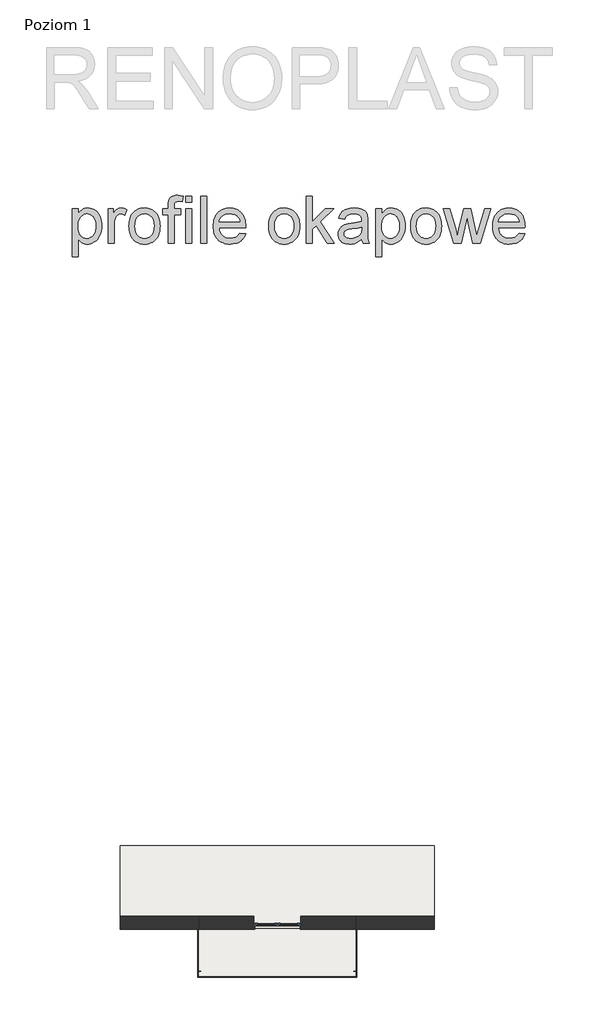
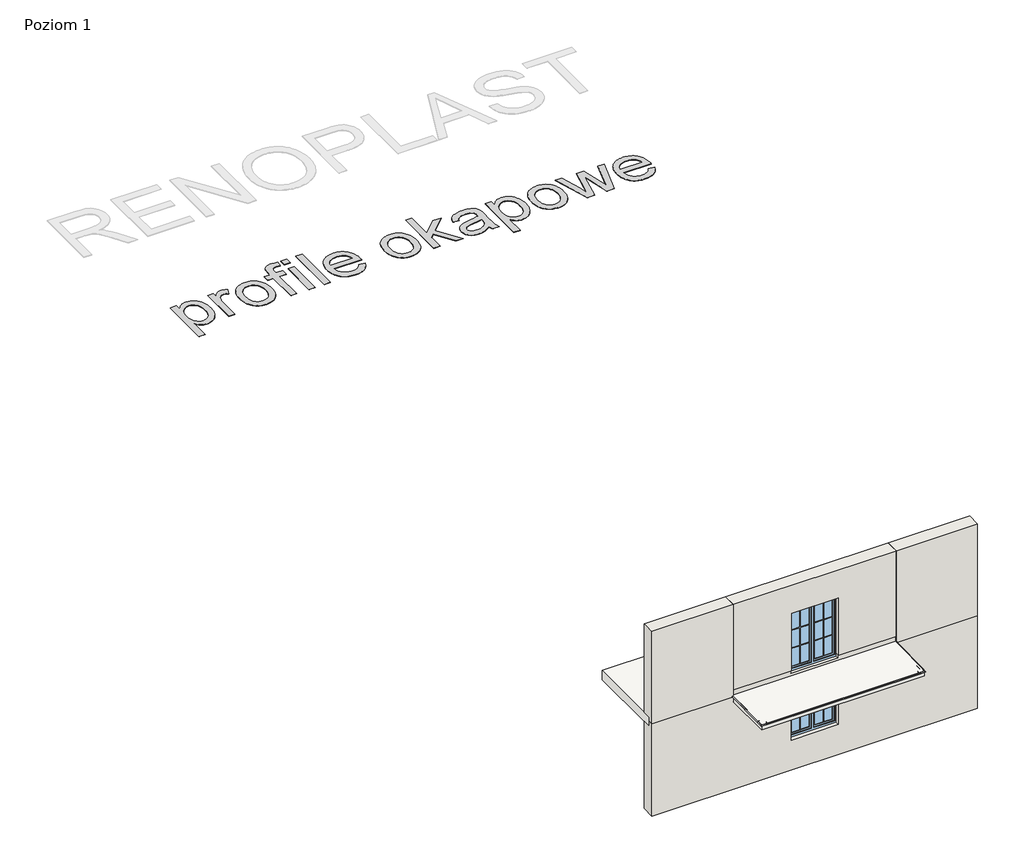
# One storey, part 1 of 2: 6 proxies, 5 walls, 2 slabs, 2 windows.
"""IFC4 building model written with IfcOpenShell, lengths in millimetres."""

from ifc_helpers import new_model, si_unit, origin, origin_with_axes, place, context, project, spatial, polyline, outline, extrude, faceted_brep, transform, mapped, element, save
from components import k10_195fb894, k10_5e8f6a10, k10_cc2a976c, opk10_a9e293d9, opk10_62074a0a, window_150x150_51b7f79a, window_150x200_12b14935

model = new_model("IFC4")

# Units and contexts
model_context = context("Model", 3, world=origin())
ifc_project = project(units=[si_unit("LENGTHUNIT", "METRE", prefix="MILLI")], contexts=[model_context])

# Site, building, storey
site = spatial("IfcSite", under=ifc_project)
building = spatial("IfcBuilding", under=site)
storey = spatial("IfcBuildingStorey", under=building, Name="Poziom 1", Elevation=0.0)

# Proxies
placement = place(None, origin())
element("IfcBuildingElementProxy", 1, Name="1500 mm Arial", ObjectType="1500 mm Arial", at=placement, inside=storey, context=model_context, shape_type="SweptSolid", body=[
    extrude(outline(polyline([(-113855.4830963, 53797.3435837), (-113855.4830963, 55327.7326836), (-113667.1275148, 55327.7326836), (-113667.1275148, 55143.055922), (-113637.3290732, 55191.857768), (-113605.6912216, 55234.1527011), (-113572.21396, 55269.9407214), (-113536.8972885, 55299.221829), (-113498.7295315, 55321.9960238), (-113456.6990136, 55338.2633057), (-113410.8057347, 55348.0236749), (-113361.0496948, 55351.2771313), (-113295.359766, 55346.7245916), (-113233.670554, 55333.0669725), (-113175.9820586, 55310.3042741), (-113122.2942799, 55278.4364963), (-113073.7798418, 55238.2913735), (-113031.6113681, 55190.6966404), (-112995.7888588, 55135.6522969), (-112966.312314, 55073.158343), (-112943.2966967, 55005.3530927), (-112926.85697, 54934.3748603), (-112916.993134, 54860.2236456), (-112913.7051887, 54782.8994488), (-112917.4184976, 54700.2294667), (-112928.5584242, 54621.8131201), (-112947.1249687, 54547.6504092), (-112973.1181309, 54477.7413338), (-113006.1815252, 54413.9138076), (-113045.9587659, 54357.9957443), (-113092.4498531, 54309.987144), (-113145.6547866, 54269.8880065), (-113202.9639037, 54238.2616512), (-113261.7675414, 54215.6713974), (-113322.0656996, 54202.1172452), (-113383.8583785, 54197.5991944), (-113428.3146184, 54200.6227246), (-113470.4486031, 54209.693315), (-113510.2603328, 54224.8109658), (-113547.7498074, 54245.9756768), (-113582.4571743, 54271.7619054), (-113613.9225812, 54300.7441088), (-113642.1460281, 54332.9222871), (-113667.1275148, 54368.2964402), (-113667.1275148, 53797.3435837), (-113855.4830963, 53797.3435837)]), holes=[polyline([(-113667.1275148, 54765.608995), (-113662.0346484, 54674.8341127), (-113646.7560493, 54596.7511592), (-113635.2971, 54562.4691558), (-113621.2917175, 54531.3601346), (-113604.7399017, 54503.4240955), (-113585.6416529, 54478.6610387), (-113542.7259189, 54438.1020488), (-113495.4645788, 54409.1313417), (-113443.8576327, 54391.7489174), (-113387.9050805, 54385.954776), (-113331.1477864, 54391.955851), (-113304.3470082, 54399.4571948), (-113278.5981426, 54409.9590761), (-113230.2561492, 54439.9644514), (-113186.1218061, 54481.9719767), (-113166.4200008, 54507.6259977), (-113149.3451029, 54536.5794604), (-113134.8971123, 54568.8323647), (-113123.0760292, 54604.3847106), (-113113.8818534, 54643.2364982), (-113107.3145849, 54685.3877274), (-113102.0607702, 54779.5885108), (-113107.1881255, 54869.5816439), (-113122.5701914, 54947.5266416), (-113134.1067409, 54981.9810897), (-113148.206968, 55013.423504), (-113164.8708727, 55041.8538844), (-113184.0984551, 55067.272231), (-113227.1176559, 55109.118808), (-113274.1375734, 55139.0092201), (-113325.1582076, 55156.9434674), (-113380.1795586, 55162.9215498), (-113408.0092567, 55161.3321846), (-113435.0284648, 55156.564089), (-113461.2371828, 55148.6172631), (-113486.6354109, 55137.4917069), (-113535.000397, 55105.7044032), (-113580.1234229, 55061.2021781), (-113600.515007, 55034.3324221), (-113618.1877131, 55004.5828398), (-113633.1415414, 54971.9534313), (-113645.3764918, 54936.4441965), (-113654.8925644, 54898.0551355), (-113661.689759, 54856.7862482), (-113667.1275148, 54765.608995)])]), origin_with_axes(), (0.0, 0.0, 1.0), 10.0),
    extrude(outline(polyline([(-112701.8051594, 54221.1436421), (-112701.8051594, 55327.7326836), (-112536.9940256, 55327.7326836), (-112536.9940256, 55164.0251958), (-112505.9539823, 55216.3564096), (-112476.1095554, 55258.9387505), (-112447.460745, 55291.7722186), (-112420.0075511, 55314.8568138), (-112392.508372, 55330.7907027), (-112363.7216059, 55342.1720519), (-112333.6472528, 55349.0008615), (-112302.2853127, 55351.2771313), (-112255.5642993, 55347.6442966), (-112208.4754039, 55336.7457925), (-112161.0186265, 55318.581619), (-112113.1939672, 55293.1517761), (-112176.1017883, 55124.2939403), (-112209.2111679, 55141.1935194), (-112242.3205475, 55153.2646474), (-112275.429927, 55160.5073242), (-112308.5393066, 55162.9215498), (-112337.4065469, 55160.5992947), (-112364.7792666, 55153.6325294), (-112390.6574657, 55142.0212539), (-112415.0411442, 55125.7654683), (-112437.0105971, 55105.3940028), (-112455.6461194, 55081.4356878), (-112470.9477112, 55053.8905235), (-112482.9153723, 55022.7585096), (-112496.2740873, 54971.3470008), (-112505.8160265, 54917.544259), (-112511.5411901, 54861.3502842), (-112513.4495779, 54802.7650765), (-112513.4495779, 54221.1436421), (-112701.8051594, 54221.1436421)])), origin_with_axes(), (0.0, 0.0, 1.0), 10.0),
    extrude(outline(polyline([(-112042.5606241, 54774.4381629), (-112040.0141909, 54848.5721331), (-112032.3748913, 54917.7511926), (-112019.6427254, 54981.9753416), (-112001.8176931, 55041.2445799), (-111978.8997945, 55095.5589076), (-111950.8890294, 55144.9183246), (-111917.785398, 55189.3228311), (-111879.5889002, 55228.7724269), (-111844.6286144, 55257.484467), (-111807.8059259, 55282.3682351), (-111769.1208349, 55303.4237312), (-111728.5733412, 55320.6509552), (-111686.163445, 55334.0499073), (-111641.8911461, 55343.6205873), (-111595.7564446, 55349.3629953), (-111547.7593406, 55351.2771313), (-111494.5572811, 55348.946254), (-111443.8441733, 55341.953622), (-111395.620017, 55330.2992353), (-111349.8848124, 55313.983094), (-111306.6385594, 55293.0051981), (-111265.8812581, 55267.3655475), (-111227.6129084, 55237.0641422), (-111191.8335102, 55202.1009823), (-111159.4570206, 55163.0278907), (-111131.3973962, 55120.3966904), (-111107.6546371, 55074.2073815), (-111088.2287434, 55024.4599638), (-111073.1197148, 54971.1544376), (-111062.3275516, 54914.2908026), (-111055.8522537, 54853.869059), (-111053.6938211, 54789.8892067), (-111057.5105968, 54689.0665474), (-111068.9609239, 54599.6022447), (-111088.0448024, 54521.4962986), (-111114.7622323, 54454.7487091), (-111148.7798205, 54397.0947026), (-111189.764174, 54346.2695057), (-111237.7152928, 54302.2731184), (-111292.6331769, 54265.1055405), (-111352.3795122, 54235.5715141), (-111414.8159846, 54214.475781), (-111479.942594, 54201.8183411), (-111547.7593406, 54197.5991944), (-111601.8006309, 54199.9214495), (-111653.1920211, 54206.8882148), (-111701.9335114, 54218.4994903), (-111748.0251017, 54234.7552759), (-111791.466792, 54255.6555718), (-111832.2585823, 54281.2003778), (-111870.4004726, 54311.3896941), (-111905.8924629, 54346.2235205), (-111937.9240632, 54385.4259456), (-111965.6847834, 54428.7210579), (-111989.1746236, 54476.1088574), (-112008.3935838, 54527.5893441), (-112023.3416639, 54583.162518), (-112034.018864, 54642.8283791), (-112040.4251841, 54706.5869274), (-112042.5606241, 54774.4381629)]), holes=[polyline([(-111854.2050426, 54774.8060449), (-111848.7557905, 54683.4448506), (-111841.9442254, 54642.3599044), (-111832.4080343, 54604.3387253), (-111820.1472172, 54569.3813136), (-111805.1617741, 54537.487669), (-111787.4517049, 54508.6577917), (-111767.0170097, 54482.8916817), (-111744.5187264, 54460.1720944), (-111720.6178931, 54440.4817854), (-111695.3145096, 54423.8207548), (-111668.608576, 54410.1890024), (-111640.5000923, 54399.5865283), (-111610.9890585, 54392.0133326), (-111547.7593406, 54385.954776), (-111484.8515194, 54392.0478215), (-111455.466945, 54399.6641284), (-111427.4619282, 54410.3269581), (-111400.8364688, 54424.0363106), (-111375.5905668, 54440.7921859), (-111351.7242224, 54460.5945839), (-111329.2374354, 54483.4435047), (-111308.8027402, 54509.4136743), (-111291.0926711, 54538.5798187), (-111276.1072279, 54570.941938), (-111263.8464108, 54606.5000321), (-111254.3102197, 54645.254101), (-111247.4986546, 54687.2041448), (-111242.0494026, 54780.6921568), (-111247.5331436, 54869.1562803), (-111254.3878198, 54909.1030917), (-111263.9843665, 54946.1930694), (-111276.3227838, 54980.4262135), (-111291.4030715, 55011.8025239), (-111309.2252297, 55040.3220008), (-111329.7892584, 55065.984644), (-111376.3148345, 55108.3945403), (-111401.5693587, 55125.055571), (-111428.1517069, 55138.6873233), (-111456.0618792, 55149.2897974), (-111485.2998756, 55156.8629932), (-111547.7593406, 55162.9215498), (-111610.9890585, 55156.8859858), (-111640.5000923, 55149.3415308), (-111668.608576, 55138.7792938), (-111695.3145096, 55125.1992749), (-111720.6178931, 55108.6014739), (-111744.5187264, 55088.985891), (-111767.0170097, 55066.352526), (-111787.4517049, 55040.6726383), (-111805.1617741, 55011.9174871), (-111820.1472172, 54980.0870723), (-111832.4080343, 54945.1813939), (-111841.9442254, 54907.200452), (-111848.7557905, 54866.1442465), (-111854.2050426, 54774.8060449)])]), origin_with_axes(), (0.0, 0.0, 1.0), 10.0),
    extrude(outline(polyline([(-110794.7048965, 54221.1436421), (-110794.7048965, 55139.3771021), (-110959.5160303, 55139.3771021), (-110959.5160303, 55327.7326836), (-110794.7048965, 55327.7326836), (-110794.7048965, 55439.2009282), (-110789.7384895, 55531.4473384), (-110783.5304808, 55567.2928403), (-110774.8392687, 55596.2865401), (-110758.4685199, 55629.2349713), (-110736.9474232, 55658.9184498), (-110710.2759786, 55685.3369756), (-110678.454186, 55708.4905486), (-110640.7922667, 55727.3215083), (-110596.600442, 55740.7721937), (-110545.878712, 55748.842605), (-110488.6270765, 55751.5327421), (-110406.865303, 55746.3823941), (-110316.8261847, 55730.9313503), (-110344.4173344, 55554.3479926), (-110400.2434271, 55560.9698686), (-110452.9425229, 55563.1771605), (-110491.811555, 55561.2227874), (-110524.5415562, 55555.3596681), (-110551.1325267, 55545.5878026), (-110571.5844664, 55531.9071909), (-110586.7940876, 55512.8922903), (-110597.6581028, 55487.117558), (-110604.1765119, 55454.5829941), (-110606.3493149, 55415.2885985), (-110606.3493149, 55327.7326836), (-110394.4492857, 55327.7326836), (-110394.4492857, 55139.3771021), (-110606.3493149, 55139.3771021), (-110606.3493149, 54221.1436421), (-110794.7048965, 54221.1436421)])), origin_with_axes(), (0.0, 0.0, 1.0), 10.0),
    extrude(outline(polyline([(-110229.6381519, 54221.1436421), (-110229.6381519, 55327.7326836), (-110041.2825703, 55327.7326836), (-110041.2825703, 54221.1436421), (-110229.6381519, 54221.1436421)])), origin_with_axes(), (0.0, 0.0, 1.0), 10.0),
    extrude(outline(polyline([(-110229.6381519, 55539.6327128), (-110229.6381519, 55727.9882944), (-110041.2825703, 55727.9882944), (-110041.2825703, 55539.6327128), (-110229.6381519, 55539.6327128)])), origin_with_axes(), (0.0, 0.0, 1.0), 10.0),
    extrude(outline(polyline([(-109758.749198, 54221.1436421), (-109758.749198, 55727.9882944), (-109570.3936165, 55727.9882944), (-109570.3936165, 54221.1436421), (-109758.749198, 54221.1436421)])), origin_with_axes(), (0.0, 0.0, 1.0), 10.0),
    extrude(outline(polyline([(-108513.1007624, 54550.7659098), (-108328.4240008, 54527.2214621), (-108356.7394181, 54453.2541885), (-108374.6133097, 54419.5642451), (-108394.9646567, 54388.0700974), (-108417.7934589, 54358.7717454), (-108443.0997165, 54331.669189), (-108470.8834293, 54306.7624283), (-108501.1445975, 54284.0514633), (-108533.733769, 54263.7892128), (-108568.5014916, 54246.2285957), (-108605.4477654, 54231.369612), (-108644.5725904, 54219.2122616), (-108729.357894, 54203.0024612), (-108822.8574023, 54197.5991944), (-108882.8853972, 54199.9300718), (-108939.7289136, 54206.9227037), (-108993.3879515, 54218.5770904), (-109043.8625109, 54234.8932317), (-109091.1525918, 54255.8711277), (-109135.2581941, 54281.5107783), (-109176.1793179, 54311.8121835), (-109213.9159632, 54346.7753435), (-109247.8013438, 54385.9461537), (-109277.1686737, 54428.87051), (-109302.0179529, 54475.5484122), (-109322.3491813, 54525.9798604), (-109338.1623589, 54580.1648546), (-109349.4574858, 54638.1033947), (-109356.2345619, 54699.7954809), (-109358.4935873, 54765.241113), (-109356.2115693, 54832.9141556), (-109349.3655153, 54896.6899484), (-109337.9554253, 54956.5684913), (-109321.9812993, 55012.5497842), (-109301.4431372, 55064.6338273), (-109276.3409392, 55112.8206206), (-109246.6747052, 55157.1101639), (-109212.4444352, 55197.5024573), (-109174.5755823, 55233.5433965), (-109133.9935997, 55264.7788772), (-109090.6984874, 55291.2088993), (-109044.6902454, 55312.8334628), (-108995.9688737, 55329.6525678), (-108944.5343722, 55341.6662142), (-108890.386741, 55348.874402), (-108833.5259802, 55351.2771313), (-108778.5247478, 55348.8801502), (-108726.0929413, 55341.6892068), (-108676.2305605, 55329.7043012), (-108628.9376056, 55312.9254333), (-108584.2140765, 55291.3526032), (-108542.0599732, 55264.9858108), (-108502.4752957, 55233.8250562), (-108465.460044, 55197.8703393), (-108431.9626639, 55157.5700164), (-108402.9316011, 55113.3724436), (-108378.3668557, 55065.2776208), (-108358.2684276, 55013.2855482), (-108342.6363169, 54957.3962258), (-108331.4705236, 54897.6096534), (-108324.7710475, 54833.9258311), (-108322.5378889, 54766.344759), (-108323.6415348, 54715.5770436), (-109170.1380058, 54715.5770436), (-109159.2280053, 54640.4141535), (-109149.7291773, 54606.3333355), (-109137.5344639, 54574.586269), (-109122.6438654, 54545.1729538), (-109105.0573815, 54518.0933901), (-109084.7750125, 54493.3475778), (-109061.7967582, 54470.9355168), (-109010.1438268, 54433.7564427), (-108952.4898204, 54407.1999612), (-108888.8347389, 54391.2660723), (-108819.1785824, 54385.954776), (-108767.0772948, 54388.4149868), (-108718.9307387, 54395.7956193), (-108674.738914, 54408.0966735), (-108634.5018208, 54425.3181494), (-108598.219459, 54447.9198995), (-108565.8918287, 54476.3617763), (-108537.5189298, 54510.6437797), (-108513.1007624, 54550.7659098)]), holes=[polyline([(-109170.1380058, 54903.9326252), (-108510.8934704, 54903.9326252), (-108520.5733654, 54957.2295292), (-108536.3692986, 55003.4447049), (-108558.2812699, 55042.5781521), (-108586.3092794, 55074.6298709), (-108611.1068251, 55095.3232332), (-108637.674803, 55113.2574804), (-108666.0132129, 55128.4326127), (-108696.122055, 55140.8486301), (-108761.6510354, 55157.4033198), (-108834.2617442, 55162.9215498), (-108900.4919996, 55158.5184621), (-108961.2270177, 55145.3091993), (-109016.4667986, 55123.2937611), (-109066.2113421, 55092.4721477), (-109107.9544523, 55054.2699018), (-109139.1899329, 55010.112566), (-109159.9177841, 54960.0001405), (-109170.1380058, 54903.9326252)])]), origin_with_axes(), (0.0, 0.0, 1.0), 10.0),
    extrude(outline(polyline([(-107592.6600104, 54774.4381629), (-107590.1135772, 54848.5721331), (-107582.4742777, 54917.7511926), (-107569.7421118, 54981.9753416), (-107551.9170795, 55041.2445799), (-107528.9991808, 55095.5589076), (-107500.9884158, 55144.9183246), (-107467.8847843, 55189.3228311), (-107429.6882866, 55228.7724269), (-107394.7280007, 55257.484467), (-107357.9053123, 55282.3682351), (-107319.2202212, 55303.4237312), (-107278.6727275, 55320.6509552), (-107236.2628313, 55334.0499073), (-107191.9905324, 55343.6205873), (-107145.855831, 55349.3629953), (-107097.8587269, 55351.2771313), (-107044.6566674, 55348.946254), (-106993.9435596, 55341.953622), (-106945.7194034, 55330.2992353), (-106899.9841988, 55313.983094), (-106856.7379458, 55293.0051981), (-106815.9806444, 55267.3655475), (-106777.7122947, 55237.0641422), (-106741.9328966, 55202.1009823), (-106709.5564069, 55163.0278907), (-106681.4967826, 55120.3966904), (-106657.7540235, 55074.2073815), (-106638.3281297, 55024.4599638), (-106623.2191012, 54971.1544376), (-106612.426938, 54914.2908026), (-106605.95164, 54853.869059), (-106603.7932074, 54789.8892067), (-106607.6099831, 54689.0665474), (-106619.0603102, 54599.6022447), (-106638.1441887, 54521.4962986), (-106664.8616186, 54454.7487091), (-106698.8792068, 54397.0947026), (-106739.8635604, 54346.2695057), (-106787.8146792, 54302.2731184), (-106842.7325633, 54265.1055405), (-106902.4788985, 54235.5715141), (-106964.9153709, 54214.475781), (-107030.0419804, 54201.8183411), (-107097.8587269, 54197.5991944), (-107151.9000172, 54199.9214495), (-107203.2914075, 54206.8882148), (-107252.0328978, 54218.4994903), (-107298.124488, 54234.7552759), (-107341.5661783, 54255.6555718), (-107382.3579686, 54281.2003778), (-107420.4998589, 54311.3896941), (-107455.9918492, 54346.2235205), (-107488.0234495, 54385.4259456), (-107515.7841698, 54428.7210579), (-107539.27401, 54476.1088574), (-107558.4929701, 54527.5893441), (-107573.4410503, 54583.162518), (-107584.1182504, 54642.8283791), (-107590.5245704, 54706.5869274), (-107592.6600104, 54774.4381629)]), holes=[polyline([(-107404.3044289, 54774.8060449), (-107398.8551768, 54683.4448506), (-107392.0436118, 54642.3599044), (-107382.5074207, 54604.3387253), (-107370.2466036, 54569.3813136), (-107355.2611604, 54537.487669), (-107337.5510912, 54508.6577917), (-107317.116396, 54482.8916817), (-107294.6181128, 54460.1720944), (-107270.7172794, 54440.4817854), (-107245.4138959, 54423.8207548), (-107218.7079623, 54410.1890024), (-107190.5994786, 54399.5865283), (-107161.0884448, 54392.0133326), (-107097.8587269, 54385.954776), (-107034.9509057, 54392.0478215), (-107005.5663314, 54399.6641284), (-106977.5613145, 54410.3269581), (-106950.9358551, 54424.0363106), (-106925.6899532, 54440.7921859), (-106901.8236087, 54460.5945839), (-106879.3368218, 54483.4435047), (-106858.9021266, 54509.4136743), (-106841.1920574, 54538.5798187), (-106826.2066143, 54570.941938), (-106813.9457971, 54606.5000321), (-106804.409606, 54645.254101), (-106797.598041, 54687.2041448), (-106792.1487889, 54780.6921568), (-106797.6325299, 54869.1562803), (-106804.4872062, 54909.1030917), (-106814.0837529, 54946.1930694), (-106826.4221701, 54980.4262135), (-106841.5024578, 55011.8025239), (-106859.3246161, 55040.3220008), (-106879.8886448, 55065.984644), (-106926.4142209, 55108.3945403), (-106951.668745, 55125.055571), (-106978.2510932, 55138.6873233), (-107006.1612655, 55149.2897974), (-107035.3992619, 55156.8629932), (-107097.8587269, 55162.9215498), (-107161.0884448, 55156.8859858), (-107190.5994786, 55149.3415308), (-107218.7079623, 55138.7792938), (-107245.4138959, 55125.1992749), (-107270.7172794, 55108.6014739), (-107294.6181128, 55088.985891), (-107317.116396, 55066.352526), (-107337.5510912, 55040.6726383), (-107355.2611604, 55011.9174871), (-107370.2466036, 54980.0870723), (-107382.5074207, 54945.1813939), (-107392.0436118, 54907.200452), (-107398.8551768, 54866.1442465), (-107404.3044289, 54774.8060449)])]), origin_with_axes(), (0.0, 0.0, 1.0), 10.0),
    extrude(outline(polyline([(-106391.8931782, 54221.1436421), (-106391.8931782, 55727.9882944), (-106203.5375966, 55727.9882944), (-106203.5375966, 54918.280023), (-105781.2090662, 55327.7326836), (-105520.7486136, 55327.7326836), (-105948.227492, 54913.1296751), (-105497.2041659, 54221.1436421), (-105717.197599, 54221.1436421), (-106083.2401842, 54782.1636848), (-106203.5375966, 54665.5450923), (-106203.5375966, 54221.1436421), (-106391.8931782, 54221.1436421)])), origin_with_axes(), (0.0, 0.0, 1.0), 10.0),
    extrude(outline(polyline([(-104626.0596013, 54362.4103283), (-104670.7227748, 54320.4947734), (-104716.0527344, 54285.2470798), (-104762.0494801, 54256.6672473), (-104808.7130119, 54234.7552759), (-104856.5721602, 54218.4994903), (-104906.1557554, 54206.8882148), (-104957.4637974, 54199.9214495), (-105010.4962863, 54197.5991944), (-105094.3618849, 54203.1864022), (-105132.423301, 54210.170412), (-105167.903795, 54219.9480256), (-105200.8033668, 54232.5192432), (-105231.1220166, 54247.8840646), (-105258.8597442, 54266.04249), (-105284.0165497, 54286.9945193), (-105306.3912476, 54310.1193516), (-105325.7826525, 54334.796186), (-105342.1907643, 54361.0250226), (-105355.615583, 54388.8058614), (-105366.0571087, 54418.1387024), (-105373.5153413, 54449.0235455), (-105379.4819274, 54515.4492383), (-105377.2286502, 54555.3874274), (-105370.4688186, 54593.5321917), (-105359.2024325, 54629.8835314), (-105343.4294919, 54664.4414463), (-105323.9892277, 54696.4471799), (-105301.7208707, 54725.1419755), (-105276.6244209, 54750.5258332), (-105248.6998782, 54772.5987529), (-105186.3898652, 54808.4672474), (-105116.8141829, 54834.4029281), (-105049.0319253, 54848.8422964), (-104953.842459, 54862.7298417), (-104850.2376921, 54876.985269), (-104761.2562346, 54892.5282833), (-104686.8980863, 54909.3588846), (-104627.1632473, 54927.4770729), (-104626.0596013, 54969.4156203), (-104629.3015614, 55015.078973), (-104639.0274417, 55053.4766562), (-104655.2372421, 55084.6086701), (-104677.9309626, 55108.4750145), (-104717.1563804, 55132.2953737), (-104764.9350545, 55149.309916), (-104821.266985, 55159.5186413), (-104886.1521719, 55162.9215498), (-104946.4848191, 55160.6567762), (-104998.3561804, 55153.8624556), (-105041.7662559, 55142.538588), (-105076.7150454, 55126.6851733), (-105105.4328337, 55105.0606097), (-105130.1499052, 55076.4232957), (-105150.8662601, 55040.7732311), (-105167.5818982, 54998.1104159), (-105355.9374798, 55021.6548636), (-105341.6015783, 55075.9174579), (-105323.2419674, 55124.6618223), (-105300.8586473, 55167.8879567), (-105274.4516178, 55205.5958612), (-105242.8827441, 55238.5442924), (-105205.0138912, 55267.4920069), (-105160.8450592, 55292.4390047), (-105110.376248, 55313.3852858), (-105054.6306294, 55329.9629682), (-104994.6313752, 55341.8041699), (-104930.3784855, 55348.908891), (-104861.8719602, 55351.2771313), (-104794.9059408, 55349.1848025), (-104734.5388047, 55342.9078159), (-104680.7705518, 55332.4461717), (-104633.6011822, 55317.7998697), (-104592.6398213, 55299.9920819), (-104557.4955945, 55280.04598), (-104528.1685017, 55257.961564), (-104504.6585429, 55233.7388338), (-104485.597657, 55206.7799814), (-104469.6177829, 55176.4871983), (-104456.7189204, 55142.8604847), (-104446.9010697, 55105.8998405), (-104440.0032823, 55040.7847274), (-104437.7040198, 54941.0887067), (-104437.7040198, 54706.7478758), (-104435.3127868, 54502.6193537), (-104428.1390879, 54379.516841), (-104413.9756311, 54298.6287874), (-104390.6151244, 54221.1436421), (-104578.9707059, 54221.1436421), (-104595.7093367, 54252.5975527), (-104609.1370295, 54286.6266373), (-104619.2537844, 54323.2308958), (-104626.0596013, 54362.4103283)]), holes=[polyline([(-104626.0596013, 54739.1214913), (-104682.9893401, 54722.8197204), (-104752.6110077, 54707.7595512), (-104929.9301293, 54681.3640181), (-105027.6487843, 54666.9246498), (-105091.9821482, 54650.8298125), (-105134.1506219, 54629.9525093), (-105151.1306753, 54616.5478091), (-105165.3746063, 54601.1657431), (-105176.6409924, 54584.3581345), (-105184.688411, 54566.6768061), (-105189.5168622, 54548.121758), (-105191.1263459, 54528.6929901), (-105187.6199707, 54499.4233788), (-105177.1008449, 54472.6829563), (-105159.5689685, 54448.4717225), (-105135.0243417, 54426.7896774), (-105103.6968905, 54408.924408), (-105065.8165413, 54396.1635013), (-105021.3832941, 54388.5069573), (-104970.3971488, 54385.954776), (-104918.3418465, 54388.7713725), (-104869.2296001, 54397.2211621), (-104823.0604097, 54411.3041447), (-104779.8342753, 54431.0203204), (-104740.8387838, 54454.7372127), (-104707.3615223, 54480.8223455), (-104679.4024906, 54509.2757185), (-104656.9616889, 54540.0973319), (-104643.9248707, 54567.6884816), (-104634.6128577, 54601.1657431), (-104629.0256499, 54640.5291166), (-104627.1632473, 54685.778602), (-104626.0596013, 54739.1214913)])]), origin_with_axes(), (0.0, 0.0, 1.0), 10.0),
    extrude(outline(polyline([(-104178.7150952, 53797.3435837), (-104178.7150952, 55327.7326836), (-103990.3595137, 55327.7326836), (-103990.3595137, 55143.055922), (-103960.5610721, 55191.857768), (-103928.9232205, 55234.1527011), (-103895.4459589, 55269.9407214), (-103860.1292874, 55299.221829), (-103821.9615304, 55321.9960238), (-103779.9310124, 55338.2633057), (-103734.0377335, 55348.0236749), (-103684.2816937, 55351.2771313), (-103618.5917649, 55346.7245916), (-103556.9025528, 55333.0669725), (-103499.2140575, 55310.3042741), (-103445.5262788, 55278.4364963), (-103397.0118407, 55238.2913735), (-103354.843367, 55190.6966404), (-103319.0208577, 55135.6522969), (-103289.5443128, 55073.158343), (-103266.5286955, 55005.3530927), (-103250.0889689, 54934.3748603), (-103240.2251329, 54860.2236456), (-103236.9371875, 54782.8994488), (-103240.6504964, 54700.2294667), (-103251.7904231, 54621.8131201), (-103270.3569675, 54547.6504092), (-103296.3501298, 54477.7413338), (-103329.4135241, 54413.9138076), (-103369.1907648, 54357.9957443), (-103415.6818519, 54309.987144), (-103468.8867855, 54269.8880065), (-103526.1959026, 54238.2616512), (-103584.9995402, 54215.6713974), (-103645.2976985, 54202.1172452), (-103707.0903774, 54197.5991944), (-103751.5466172, 54200.6227246), (-103793.680602, 54209.693315), (-103833.4923317, 54224.8109658), (-103870.9818062, 54245.9756768), (-103905.6891732, 54271.7619054), (-103937.1545801, 54300.7441088), (-103965.3780269, 54332.9222871), (-103990.3595137, 54368.2964402), (-103990.3595137, 53797.3435837), (-104178.7150952, 53797.3435837)]), holes=[polyline([(-103990.3595137, 54765.608995), (-103985.2666473, 54674.8341127), (-103969.9880482, 54596.7511592), (-103958.5290988, 54562.4691558), (-103944.5237163, 54531.3601346), (-103927.9719006, 54503.4240955), (-103908.8736517, 54478.6610387), (-103865.9579177, 54438.1020488), (-103818.6965777, 54409.1313417), (-103767.0896315, 54391.7489174), (-103711.1370793, 54385.954776), (-103654.3797853, 54391.955851), (-103627.5790071, 54399.4571948), (-103601.8301415, 54409.9590761), (-103553.4881481, 54439.9644514), (-103509.353805, 54481.9719767), (-103489.6519997, 54507.6259977), (-103472.5771018, 54536.5794604), (-103458.1291112, 54568.8323647), (-103446.308028, 54604.3847106), (-103437.1138522, 54643.2364982), (-103430.5465838, 54685.3877274), (-103425.2927691, 54779.5885108), (-103430.4201244, 54869.5816439), (-103445.8021903, 54947.5266416), (-103457.3387397, 54981.9810897), (-103471.4389668, 55013.423504), (-103488.1028716, 55041.8538844), (-103507.330454, 55067.272231), (-103550.3496548, 55109.118808), (-103597.3695723, 55139.0092201), (-103648.3902065, 55156.9434674), (-103703.4115574, 55162.9215498), (-103731.2412555, 55161.3321846), (-103758.2604636, 55156.564089), (-103784.4691817, 55148.6172631), (-103809.8674098, 55137.4917069), (-103858.2323958, 55105.7044032), (-103903.3554218, 55061.2021781), (-103923.7470058, 55034.3324221), (-103941.419712, 55004.5828398), (-103956.3735403, 54971.9534313), (-103968.6084907, 54936.4441965), (-103978.1245632, 54898.0551355), (-103984.9217579, 54856.7862482), (-103990.3595137, 54765.608995)])]), origin_with_axes(), (0.0, 0.0, 1.0), 10.0),
    extrude(outline(polyline([(-103072.1260537, 54774.4381629), (-103069.5796205, 54848.5721331), (-103061.940321, 54917.7511926), (-103049.208155, 54981.9753416), (-103031.3831227, 55041.2445799), (-103008.4652241, 55095.5589076), (-102980.454459, 55144.9183246), (-102947.3508276, 55189.3228311), (-102909.1543298, 55228.7724269), (-102874.194044, 55257.484467), (-102837.3713555, 55282.3682351), (-102798.6862645, 55303.4237312), (-102758.1387708, 55320.6509552), (-102715.7288746, 55334.0499073), (-102671.4565757, 55343.6205873), (-102625.3218742, 55349.3629953), (-102577.3247702, 55351.2771313), (-102524.1227107, 55348.946254), (-102473.4096029, 55341.953622), (-102425.1854466, 55330.2992353), (-102379.450242, 55313.983094), (-102336.2039891, 55293.0051981), (-102295.4466877, 55267.3655475), (-102257.178338, 55237.0641422), (-102221.3989399, 55202.1009823), (-102189.0224502, 55163.0278907), (-102160.9628258, 55120.3966904), (-102137.2200668, 55074.2073815), (-102117.794173, 55024.4599638), (-102102.6851445, 54971.1544376), (-102091.8929812, 54914.2908026), (-102085.4176833, 54853.869059), (-102083.2592507, 54789.8892067), (-102087.0760264, 54689.0665474), (-102098.5263535, 54599.6022447), (-102117.610232, 54521.4962986), (-102144.3276619, 54454.7487091), (-102178.3452501, 54397.0947026), (-102219.3296036, 54346.2695057), (-102267.2807224, 54302.2731184), (-102322.1986065, 54265.1055405), (-102381.9449418, 54235.5715141), (-102444.3814142, 54214.475781), (-102509.5080236, 54201.8183411), (-102577.3247702, 54197.5991944), (-102631.3660605, 54199.9214495), (-102682.7574507, 54206.8882148), (-102731.498941, 54218.4994903), (-102777.5905313, 54234.7552759), (-102821.0322216, 54255.6555718), (-102861.8240119, 54281.2003778), (-102899.9659022, 54311.3896941), (-102935.4578925, 54346.2235205), (-102967.4894928, 54385.4259456), (-102995.250213, 54428.7210579), (-103018.7400532, 54476.1088574), (-103037.9590134, 54527.5893441), (-103052.9070935, 54583.162518), (-103063.5842936, 54642.8283791), (-103069.9906137, 54706.5869274), (-103072.1260537, 54774.4381629)]), holes=[polyline([(-102883.7704722, 54774.8060449), (-102878.3212201, 54683.4448506), (-102871.509655, 54642.3599044), (-102861.973464, 54604.3387253), (-102849.7126468, 54569.3813136), (-102834.7272037, 54537.487669), (-102817.0171345, 54508.6577917), (-102796.5824393, 54482.8916817), (-102774.084156, 54460.1720944), (-102750.1833227, 54440.4817854), (-102724.8799392, 54423.8207548), (-102698.1740056, 54410.1890024), (-102670.0655219, 54399.5865283), (-102640.5544881, 54392.0133326), (-102577.3247702, 54385.954776), (-102514.416949, 54392.0478215), (-102485.0323746, 54399.6641284), (-102457.0273578, 54410.3269581), (-102430.4018984, 54424.0363106), (-102405.1559964, 54440.7921859), (-102381.289652, 54460.5945839), (-102358.8028651, 54483.4435047), (-102338.3681699, 54509.4136743), (-102320.6581007, 54538.5798187), (-102305.6726575, 54570.941938), (-102293.4118404, 54606.5000321), (-102283.8756493, 54645.254101), (-102277.0640842, 54687.2041448), (-102271.6148322, 54780.6921568), (-102277.0985732, 54869.1562803), (-102283.9532494, 54909.1030917), (-102293.5497962, 54946.1930694), (-102305.8882134, 54980.4262135), (-102320.9685011, 55011.8025239), (-102338.7906593, 55040.3220008), (-102359.354688, 55065.984644), (-102405.8802641, 55108.3945403), (-102431.1347883, 55125.055571), (-102457.7171365, 55138.6873233), (-102485.6273088, 55149.2897974), (-102514.8653052, 55156.8629932), (-102577.3247702, 55162.9215498), (-102640.5544881, 55156.8859858), (-102670.0655219, 55149.3415308), (-102698.1740056, 55138.7792938), (-102724.8799392, 55125.1992749), (-102750.1833227, 55108.6014739), (-102774.084156, 55088.985891), (-102796.5824393, 55066.352526), (-102817.0171345, 55040.6726383), (-102834.7272037, 55011.9174871), (-102849.7126468, 54980.0870723), (-102861.973464, 54945.1813939), (-102871.509655, 54907.200452), (-102878.3212201, 54866.1442465), (-102883.7704722, 54774.8060449)])]), origin_with_axes(), (0.0, 0.0, 1.0), 10.0),
    extrude(outline(polyline([(-101687.7861058, 54221.1436421), (-102024.3981314, 55327.7326836), (-101828.68491, 55327.7326836), (-101637.7541545, 54682.0997821), (-101580.7324453, 54451.4377711), (-101534.0114319, 54673.6384962), (-101382.0761679, 55327.7326836), (-101157.6681508, 55327.7326836), (-101006.4686508, 54675.4779062), (-100964.8979853, 54474.2464548), (-100905.3011021, 54686.514366), (-100714.0024646, 55327.7326836), (-100517.5534792, 55327.7326836), (-100856.7406787, 54221.1436421), (-101084.4596338, 54221.1436421), (-101229.0372579, 54870.0874816), (-101270.9758053, 55072.422579), (-101457.4919769, 54221.1436421), (-101687.7861058, 54221.1436421)])), origin_with_axes(), (0.0, 0.0, 1.0), 10.0),
    extrude(outline(polyline([(-99613.299535, 54550.7659098), (-99428.6227735, 54527.2214621), (-99456.9381908, 54453.2541885), (-99474.8120824, 54419.5642451), (-99495.1634293, 54388.0700974), (-99517.9922316, 54358.7717454), (-99543.2984892, 54331.669189), (-99571.082202, 54306.7624283), (-99601.3433702, 54284.0514633), (-99633.9325416, 54263.7892128), (-99668.7002643, 54246.2285957), (-99705.6465381, 54231.369612), (-99744.7713631, 54219.2122616), (-99829.5566666, 54203.0024612), (-99923.056175, 54197.5991944), (-99983.0841699, 54199.9300718), (-100039.9276863, 54206.9227037), (-100093.5867242, 54218.5770904), (-100144.0612836, 54234.8932317), (-100191.3513644, 54255.8711277), (-100235.4569668, 54281.5107783), (-100276.3780906, 54311.8121835), (-100314.1147359, 54346.7753435), (-100348.0001165, 54385.9461537), (-100377.3674464, 54428.87051), (-100402.2167255, 54475.5484122), (-100422.5479539, 54525.9798604), (-100438.3611316, 54580.1648546), (-100449.6562585, 54638.1033947), (-100456.4333346, 54699.7954809), (-100458.69236, 54765.241113), (-100456.410342, 54832.9141556), (-100449.564288, 54896.6899484), (-100438.154198, 54956.5684913), (-100422.1800719, 55012.5497842), (-100401.6419099, 55064.6338273), (-100376.5397119, 55112.8206206), (-100346.8734779, 55157.1101639), (-100312.6432079, 55197.5024573), (-100274.774355, 55233.5433965), (-100234.1923724, 55264.7788772), (-100190.8972601, 55291.2088993), (-100144.8890181, 55312.8334628), (-100096.1676463, 55329.6525678), (-100044.7331449, 55341.6662142), (-99990.5855137, 55348.874402), (-99933.7247528, 55351.2771313), (-99878.7235205, 55348.8801502), (-99826.2917139, 55341.6892068), (-99776.4293332, 55329.7043012), (-99729.1363783, 55312.9254333), (-99684.4128492, 55291.3526032), (-99642.2587459, 55264.9858108), (-99602.6740684, 55233.8250562), (-99565.6588167, 55197.8703393), (-99532.1614366, 55157.5700164), (-99503.1303738, 55113.3724436), (-99478.5656284, 55065.2776208), (-99458.4672003, 55013.2855482), (-99442.8350896, 54957.3962258), (-99431.6692962, 54897.6096534), (-99424.9698202, 54833.9258311), (-99422.7366615, 54766.344759), (-99423.8403075, 54715.5770436), (-100270.3367784, 54715.5770436), (-100259.426778, 54640.4141535), (-100249.9279499, 54606.3333355), (-100237.7332366, 54574.586269), (-100222.842638, 54545.1729538), (-100205.2561542, 54518.0933901), (-100184.9737852, 54493.3475778), (-100161.9955309, 54470.9355168), (-100110.3425995, 54433.7564427), (-100052.688593, 54407.1999612), (-99989.0335116, 54391.2660723), (-99919.377355, 54385.954776), (-99867.2760675, 54388.4149868), (-99819.1295113, 54395.7956193), (-99774.9376867, 54408.0966735), (-99734.7005935, 54425.3181494), (-99698.4182317, 54447.9198995), (-99666.0906014, 54476.3617763), (-99637.7177025, 54510.6437797), (-99613.299535, 54550.7659098)]), holes=[polyline([(-100270.3367784, 54903.9326252), (-99611.0922431, 54903.9326252), (-99620.7721381, 54957.2295292), (-99636.5680712, 55003.4447049), (-99658.4800426, 55042.5781521), (-99686.5080521, 55074.6298709), (-99711.3055978, 55095.3232332), (-99737.8735757, 55113.2574804), (-99766.2119856, 55128.4326127), (-99796.3208276, 55140.8486301), (-99861.849808, 55157.4033198), (-99934.4605168, 55162.9215498), (-100000.6907723, 55158.5184621), (-100061.4257904, 55145.3091993), (-100116.6655713, 55123.2937611), (-100166.4101148, 55092.4721477), (-100208.1532249, 55054.2699018), (-100239.3887056, 55010.112566), (-100260.1165568, 54960.0001405), (-100270.3367784, 54903.9326252)])]), origin_with_axes(), (0.0, 0.0, 1.0), 10.0),
])
k10_shape = k10_195fb894(model_context)
element("IfcBuildingElementProxy", 2, Name="K10 Profil okapowy prosty bez rynny : K10", ObjectType="K10 Profil okapowy prosty bez rynny : K10", at=placement, inside=storey, context=model_context, shape_type="MappedRepresentation", body=[
    mapped(k10_shape, transform((-104813.173413, 31031.9647948, -110.6821923), x_axis=(-8.293372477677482e-05, 0.9998020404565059, 0.019896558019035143), y_axis=(-0.9999999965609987, -8.291730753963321e-05, -1.6500956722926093e-06), z_axis=(0.0, -0.019896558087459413, 0.9998020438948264))),
])
k10_2_shape = k10_5e8f6a10(model_context)
element("IfcBuildingElementProxy", 3, Name="K10 Profil okapowy prosty bez rynny : K10", ObjectType="K10 Profil okapowy prosty bez rynny : K10", at=placement, inside=storey, context=model_context, shape_type="MappedRepresentation", body=[
    mapped(k10_2_shape, transform((-109813.173413, 31035.2112703, -110.6175858), x_axis=(0.0, 0.9998020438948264, 0.019896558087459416), y_axis=(-1.0, 0.0, 0.0), z_axis=(0.0, -0.019896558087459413, 0.9998020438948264))),
])
k10_3_shape = k10_cc2a976c(model_context)
element("IfcBuildingElementProxy", 4, Name="K10 Profil okapowy prosty bez rynny : K10", ObjectType="K10 Profil okapowy prosty bez rynny : K10", at=placement, inside=storey, context=model_context, shape_type="MappedRepresentation", body=[
    mapped(k10_3_shape, transform((-109813.283815, 30865.2449587, -114.0), x_axis=(0.9999997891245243, -0.000649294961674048, -1.2921292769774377e-05), y_axis=(0.0006494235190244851, 0.9998018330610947, 0.01989655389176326), z_axis=(0.0, -0.019896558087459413, 0.9998020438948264))),
])
opk10_shape = opk10_a9e293d9(model_context)
element("IfcBuildingElementProxy", 5, Name="Odbojnik - OPK10 : OPK10", ObjectType="Odbojnik - OPK10 : OPK10", at=placement, inside=storey, context=model_context, shape_type="MappedRepresentation", body=[
    mapped(opk10_shape, transform((-104755.464538, 32361.422943, -150.0186974), x_axis=(8.293372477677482e-05, -0.9998020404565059, -0.019896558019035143), y_axis=(0.9999999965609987, 8.291730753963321e-05, 1.6500956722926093e-06), z_axis=(0.0, -0.019896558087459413, 0.9998020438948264))),
])
opk10_2_shape = opk10_62074a0a(model_context)
element("IfcBuildingElementProxy", 6, Name="Odbojnik - OPK10 : OPK10", ObjectType="Odbojnik - OPK10 : OPK10", at=placement, inside=storey, context=model_context, shape_type="MappedRepresentation", body=[
    mapped(opk10_2_shape, transform((-109870.992458, 32363.4573457, -149.9782118), x_axis=(0.0, -0.9998020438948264, -0.019896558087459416), y_axis=(1.0, 0.0, 0.0), z_axis=(0.0, -0.019896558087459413, 0.9998020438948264))),
])

# Slabs
element("IfcSlab", 7, ObjectType="Balkon - posadzka żywiczna cienkowarstwowa", at=placement, inside=storey, context=model_context, shape_type="Brep", body=[
    faceted_brep([(-109813.283815, 30865.2449587, -277.2), (-109813.283815, 32365.2449587, -277.2), (-109813.283815, 32473.2449587, -277.2), (-104813.283815, 32473.2449587, -277.2), (-104813.283815, 32365.2449587, -277.2), (-104813.283815, 30865.2449587, -277.2), (-109813.283815, 30865.2449587, -114.0), (-109813.283815, 32395.2449587, -83.5522388), (-109813.283815, 32473.2449587, -82.0), (-109813.283815, 32473.2449587, -125.0), (-104813.283815, 32473.2449587, -82.0), (-104813.283815, 32473.2449587, -125.0), (-104813.283815, 30865.2449587, -114.0), (-104813.283815, 32395.2449587, -83.5522388)], [[[0, 1, 2, 3, 4, 5]], [[2, 1, 0, 6, 7, 8, 9]], [[3, 2, 9, 8, 10, 11]], [[0, 5, 12, 6]], [[5, 4, 3, 11, 10, 13, 12]], [[12, 13, 10, 8, 7, 6]]]),
])
element("IfcSlab", 8, ObjectType="Strop", at=placement, inside=storey, context=model_context, shape_type="Brep", body=[
    faceted_brep([(-102313.283815, 32520.2449587, -300.0), (-112313.283815, 32520.2449587, -300.0), (-112313.283815, 32785.2449587, -300.0), (-112313.283815, 35020.2449587, -300.0), (-102313.283815, 35020.2449587, -300.0), (-102313.283815, 32785.2449587, -300.0), (-102313.283815, 32520.2449587, 0.0), (-102313.283815, 32785.2449587, 0.0), (-102313.283815, 35020.2449587, 0.0), (-112313.283815, 35020.2449587, 0.0), (-112313.283815, 32785.2449587, 0.0), (-112313.283815, 32520.2449587, 0.0), (-109813.283815, 32520.2449587, 0.0), (-108063.283815, 32520.2449587, 0.0), (-106563.283815, 32520.2449587, 0.0), (-104813.283815, 32520.2449587, 0.0), (-102313.283815, 32520.2449587, -125.0), (-112313.283815, 32520.2449587, -125.0)], [[[0, 1, 2, 3, 4, 5]], [[6, 7, 8, 9, 10, 11, 12, 13, 14, 15]], [[1, 0, 16, 6, 15, 14, 13, 12, 11, 17]], [[3, 2, 1, 17, 11, 10, 9]], [[4, 3, 9, 8]], [[0, 5, 4, 8, 7, 6, 16]]]),
])

# Walls
element("IfcWall", 9, ObjectType="Porotherm P+W 25 + o15 + t", at=placement, inside=storey, context=model_context, shape_type="Brep", body=[
    faceted_brep([(-112313.283815, 32365.2449587, -3125.0), (-102313.283815, 32365.2449587, -3125.0), (-102313.283815, 32365.2449587, -125.0), (-104813.283815, 32365.2449587, -125.0), (-104813.283815, 32365.2449587, -277.2), (-109813.283815, 32365.2449587, -277.2), (-109813.283815, 32365.2449587, -125.0), (-112313.283815, 32365.2449587, -125.0), (-106593.283815, 32365.2449587, -680.0), (-106593.283815, 32365.2449587, -2150.0), (-108033.283815, 32365.2449587, -2150.0), (-108033.283815, 32365.2449587, -680.0), (-102313.283815, 32785.2449587, -3125.0), (-112313.283815, 32785.2449587, -3125.0), (-112313.283815, 32785.2449587, -300.0), (-102313.283815, 32785.2449587, -300.0), (-106563.283815, 32785.2449587, -2150.0), (-106563.283815, 32785.2449587, -650.0), (-108063.283815, 32785.2449587, -650.0), (-108063.283815, 32785.2449587, -2150.0), (-102313.283815, 32520.2449587, -300.0), (-102313.283815, 32520.2449587, -125.0), (-104813.283815, 32520.2449587, -125.0), (-109813.283815, 32520.2449587, -125.0), (-112313.283815, 32520.2449587, -125.0), (-109813.283815, 32473.2449587, -125.0), (-104813.283815, 32473.2449587, -125.0), (-112313.283815, 32520.2449587, -300.0), (-106563.283815, 32485.2449587, -650.0), (-106563.283815, 32485.2449587, -2150.0), (-106593.283815, 32485.2449587, -680.0), (-106593.283815, 32485.2449587, -2150.0), (-104813.283815, 32473.2449587, -277.2), (-109813.283815, 32473.2449587, -277.2), (-108063.283815, 32485.2449587, -650.0), (-108063.283815, 32485.2449587, -2150.0), (-108033.283815, 32485.2449587, -2150.0), (-108033.283815, 32485.2449587, -680.0)], [[[0, 1, 2, 3, 4, 5, 6, 7], [8, 9, 10, 11]], [[12, 13, 14, 15], [16, 17, 18, 19]], [[1, 0, 13, 12]], [[2, 1, 12, 15, 20, 21]], [[2, 21, 22, 23, 24, 7, 6, 25, 26, 3]], [[0, 7, 24, 27, 14, 13]], [[28, 17, 16, 29]], [[8, 30, 31, 9]], [[27, 20, 15, 14]], [[20, 27, 24, 23, 22, 21]], [[32, 33, 5, 4]], [[5, 33, 25, 6]], [[33, 32, 26, 25]], [[32, 4, 3, 26]], [[17, 28, 34, 18]], [[29, 16, 19, 35, 36, 10, 9, 31]], [[34, 28, 29, 31, 30, 37, 36, 35]], [[34, 35, 19, 18]], [[30, 8, 11, 37]], [[10, 36, 37, 11]]]),
])
element("IfcWall", 10, ObjectType="Porotherm P+W 25 + o15 + t", at=placement, inside=storey, context=model_context, shape_type="Brep", body=[
    faceted_brep([(-112313.283815, 32365.2449587, -125.0), (-109813.283815, 32365.2449587, -125.0), (-109813.283815, 32365.2449587, 100.0), (-109813.283815, 32365.2449587, 2875.0), (-112313.283815, 32365.2449587, 2875.0), (-112313.283815, 32785.2449587, 2875.0), (-109813.283815, 32785.2449587, 2875.0), (-109813.283815, 32785.2449587, 100.0), (-109813.283815, 32785.2449587, 0.0), (-112313.283815, 32785.2449587, 0.0), (-112313.283815, 32520.2449587, -125.0), (-109813.283815, 32520.2449587, -125.0), (-109813.283815, 32473.2449587, -125.0), (-112313.283815, 32520.2449587, 0.0), (-109813.283815, 32520.2449587, 0.0)], [[[0, 1, 2, 3, 4]], [[5, 6, 7, 8, 9]], [[1, 0, 10, 11, 12]], [[4, 3, 6, 5]], [[0, 4, 5, 9, 13, 10]], [[14, 13, 9, 8]], [[13, 14, 11, 10]], [[6, 3, 2, 1, 12, 11, 14, 8, 7]]]),
])
element("IfcWall", 11, ObjectType="Porotherm P+W 25 + o15 + t", at=placement, inside=storey, context=model_context, shape_type="Brep", body=[
    faceted_brep([(-104813.283815, 32365.2449587, -125.0), (-102313.283815, 32365.2449587, -125.0), (-102313.283815, 32365.2449587, 2875.0), (-104813.283815, 32365.2449587, 2875.0), (-104813.283815, 32365.2449587, 100.0), (-104813.283815, 32785.2449587, 2875.0), (-102313.283815, 32785.2449587, 2875.0), (-102313.283815, 32785.2449587, 0.0), (-104813.283815, 32785.2449587, 0.0), (-104813.283815, 32785.2449587, 100.0), (-104813.283815, 32473.2449587, -125.0), (-104813.283815, 32520.2449587, -125.0), (-102313.283815, 32520.2449587, -125.0), (-102313.283815, 32520.2449587, 0.0), (-104813.283815, 32520.2449587, 0.0)], [[[0, 1, 2, 3, 4]], [[5, 6, 7, 8, 9]], [[1, 0, 10, 11, 12]], [[2, 1, 12, 13, 7, 6]], [[3, 2, 6, 5]], [[13, 14, 8, 7]], [[14, 13, 12, 11]], [[3, 5, 9, 8, 14, 11, 10, 0, 4]]]),
])
element("IfcWall", 12, ObjectType="Porotherm P+W 25 + o12 + t", at=placement, inside=storey, context=model_context, shape_type="Brep", body=[
    faceted_brep([(-104813.283815, 32395.2449587, -83.5522388), (-104813.283815, 32395.2449587, 100.0), (-106593.283815, 32395.2449587, 100.0), (-106593.283815, 32395.2449587, 0.0), (-108033.283815, 32395.2449587, 0.0), (-108033.283815, 32395.2449587, 100.0), (-109813.283815, 32395.2449587, 100.0), (-109813.283815, 32395.2449587, -83.5522388), (-106563.283815, 32785.2449587, 100.0), (-104813.283815, 32785.2449587, 100.0), (-104813.283815, 32785.2449587, 0.0), (-106563.283815, 32785.2449587, 0.0), (-109813.283815, 32785.2449587, 100.0), (-108063.283815, 32785.2449587, 100.0), (-108063.283815, 32785.2449587, 0.0), (-109813.283815, 32785.2449587, 0.0), (-104813.283815, 32473.2449587, -125.0), (-109813.283815, 32473.2449587, -125.0), (-109813.283815, 32520.2449587, -125.0), (-104813.283815, 32520.2449587, -125.0), (-104813.283815, 32473.2449587, -82.0), (-104813.283815, 32520.2449587, 0.0), (-106563.283815, 32485.2449587, 100.0), (-106593.283815, 32485.2449587, 100.0), (-108033.283815, 32485.2449587, 100.0), (-108063.283815, 32485.2449587, 100.0), (-109813.283815, 32520.2449587, 0.0), (-109813.283815, 32473.2449587, -82.0), (-106563.283815, 32520.2449587, 0.0), (-108063.283815, 32520.2449587, 0.0), (-108063.283815, 32485.2449587, 0.0), (-108033.283815, 32485.2449587, 0.0), (-106593.283815, 32485.2449587, 0.0), (-106563.283815, 32485.2449587, 0.0)], [[[0, 1, 2, 3, 4, 5, 6, 7]], [[8, 9, 10, 11]], [[12, 13, 14, 15]], [[16, 17, 18, 19]], [[9, 1, 0, 20, 16, 19, 21, 10]], [[1, 9, 8, 22, 23, 2]], [[12, 6, 5, 24, 25, 13]], [[6, 12, 15, 26, 18, 17, 27, 7]], [[20, 27, 17, 16]], [[27, 20, 0, 7]], [[21, 28, 11, 10]], [[29, 26, 15, 14]], [[28, 21, 19, 18, 26, 29]], [[30, 31, 4, 3, 32, 33, 28, 29]], [[31, 30, 25, 24]], [[33, 32, 23, 22]], [[33, 22, 8, 11, 28]], [[25, 30, 29, 14, 13]], [[32, 3, 2, 23]], [[4, 31, 24, 5]]]),
])
element("IfcWall", 13, ObjectType="Porotherm P+W 25 + o15 + t", at=placement, inside=storey, context=model_context, shape_type="Brep", body=[
    faceted_brep([(-104813.283815, 32365.2449587, 100.0), (-104813.283815, 32365.2449587, 2875.0), (-109813.283815, 32365.2449587, 2875.0), (-109813.283815, 32365.2449587, 100.0), (-108033.283815, 32365.2449587, 100.0), (-108033.283815, 32365.2449587, 1970.0), (-106593.283815, 32365.2449587, 1970.0), (-106593.283815, 32365.2449587, 100.0), (-104813.283815, 32785.2449587, 2875.0), (-104813.283815, 32785.2449587, 100.0), (-106563.283815, 32785.2449587, 100.0), (-106563.283815, 32785.2449587, 2000.0), (-108063.283815, 32785.2449587, 2000.0), (-108063.283815, 32785.2449587, 100.0), (-109813.283815, 32785.2449587, 100.0), (-109813.283815, 32785.2449587, 2875.0), (-109813.283815, 32395.2449587, 100.0), (-108063.283815, 32485.2449587, 100.0), (-108033.283815, 32485.2449587, 100.0), (-108033.283815, 32395.2449587, 100.0), (-104813.283815, 32395.2449587, 100.0), (-106593.283815, 32395.2449587, 100.0), (-106593.283815, 32485.2449587, 100.0), (-106563.283815, 32485.2449587, 100.0), (-106563.283815, 32485.2449587, 2000.0), (-106593.283815, 32485.2449587, 1970.0), (-108063.283815, 32485.2449587, 2000.0), (-108033.283815, 32485.2449587, 1970.0)], [[[0, 1, 2, 3, 4, 5, 6, 7]], [[8, 9, 10, 11, 12, 13, 14, 15]], [[3, 16, 14, 13, 17, 18, 19, 4]], [[9, 20, 0, 7, 21, 22, 23, 10]], [[1, 0, 20, 9, 8]], [[2, 1, 8, 15]], [[3, 2, 15, 14, 16]], [[24, 11, 10, 23]], [[6, 25, 22, 21, 7]], [[26, 12, 11, 24]], [[26, 24, 23, 22, 25, 27, 18, 17]], [[12, 26, 17, 13]], [[27, 25, 6, 5]], [[27, 5, 4, 19, 18]]]),
])

# Windows
window_150x150_shape = window_150x150_51b7f79a(model_context)
element("IfcWindow", 14, ObjectType="OKNO_2X_W_SZ : 150x150", at=placement, inside=storey, context=model_context, shape_type="MappedRepresentation", body=[
    mapped(window_150x150_shape, transform((-107313.283815, 32575.2449587, -3000.0), x_axis=(-1.0, 0.0, 0.0), y_axis=(0.0, -1.0, 0.0), z_axis=(0.0, 0.0, 1.0))),
])
window_150x200_shape = window_150x200_12b14935(model_context)
element("IfcWindow", 15, ObjectType="OKNO_2X_W_SZ : 150x200", at=placement, inside=storey, context=model_context, shape_type="MappedRepresentation", body=[
    mapped(window_150x200_shape, transform((-107313.283815, 32575.2449587, -850.0), x_axis=(-1.0, 0.0, 0.0), y_axis=(0.0, -1.0, 0.0), z_axis=(0.0, 0.0, 1.0))),
])

save(model, "model.ifc")
